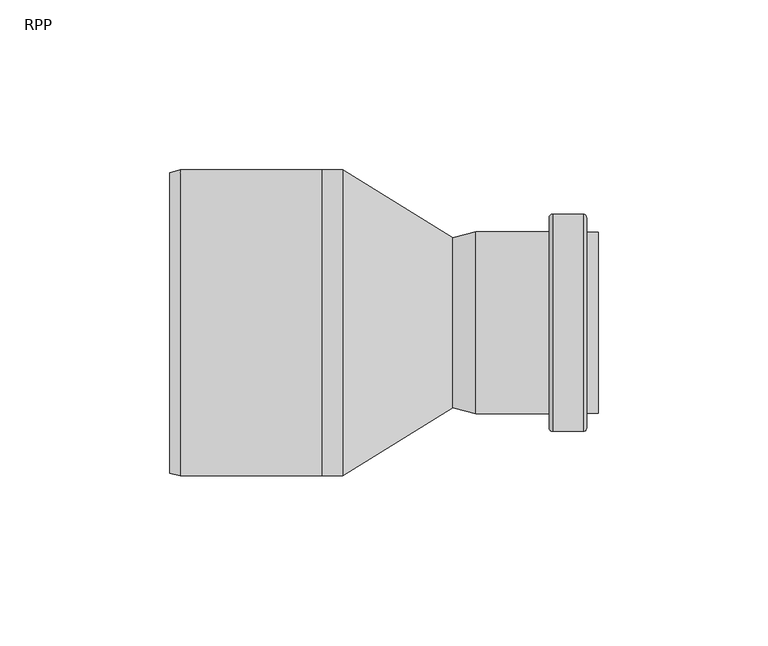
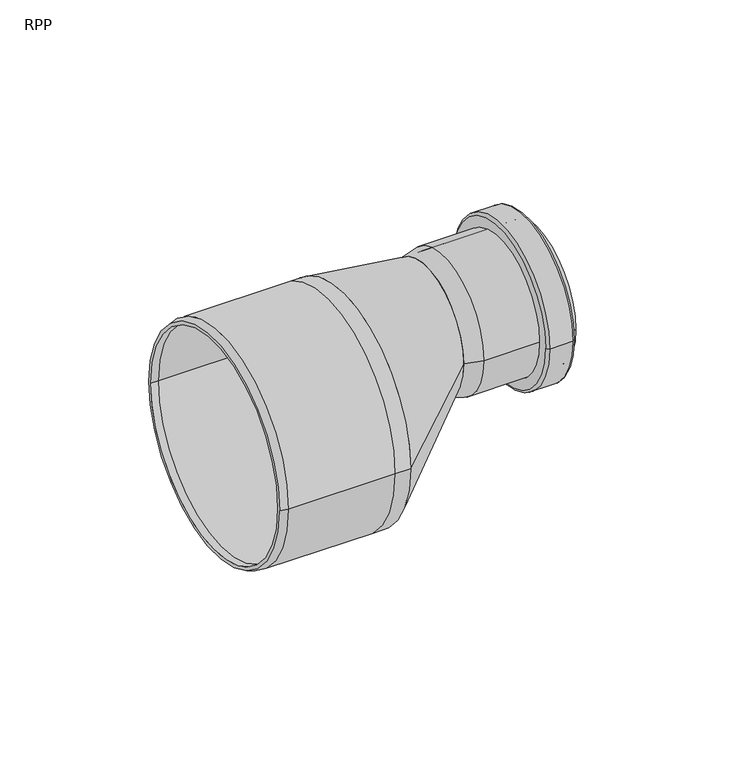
"""IFC4 building model written with IfcOpenShell, lengths in millimetres: pipe fitting geometry, RAUPIANO PLUS Reducer : RPP."""

from ifc_helpers import new_model, si_unit, point, frame, origin, place, context, project, spatial, polyline, circle_curve, ellipse_curve, trimmed, source, transform, mapped, element, save
from ifc_brep_helpers import plane_surface, cylinder_surface, revolved_surface, spline_surface, advanced_brep


def rpp_d7fdc592(model_context):
    return source(origin(), model_context, "Body", "AdvancedBrep", [
        advanced_brep(
        [(44.6, 26.8220545, 20.0), (44.6, -26.8220545, 20.0), (23.0, -26.8220545, 20.0), (23.0, 26.8220545, 20.0), (59.0, 26.6076952, 20.0), (59.0, -26.6076952, 20.0), (55.6, -26.6076952, 20.0), (55.6, 26.6076952, 20.0), (55.6, 25.0220545, 20.0), (55.6, -25.0220545, 20.0), (59.0, -25.0220545, 20.0), (59.0, 25.0220545, 20.0), (23.0, 25.0220545, 20.0), (23.0, -25.0220545, 20.0), (16.2, 23.2, 20.0), (16.2, -23.2, 20.0), (16.2, -25.0, 20.0), (16.2, 25.0, 20.0), (45.6, 31.9720545, 20.0), (45.6, -31.9720545, 20.0), (44.6, -30.9720545, 20.0), (44.6, 30.9720545, 20.0), (54.6, 31.9720545, 20.0), (54.6, -31.9720545, 20.0), (55.6, 30.9720545, 20.0), (55.6, -30.9720545, 20.0)],
        [
            (0, 1, circle_curve(frame((44.6, 0.0, 20.0), z_axis=(-1.0, 0.0, 0.0), x_axis=(0.0, -1.0, 0.0)), 26.8220545)),
            (1, 2),
            (2, 3, circle_curve(frame((23.0, 0.0, 20.0), z_axis=(1.0, 0.0, 0.0), x_axis=(0.0, -1.0, 0.0)), 26.8220545)),
            (3, 0),
            (4, 5, circle_curve(frame((59.0, 0.0, 20.0), z_axis=(-1.0, 0.0, 0.0), x_axis=(0.0, -1.0, 0.0)), 26.6076952)),
            (5, 6),
            (6, 7, circle_curve(frame((55.6, 0.0, 20.0), z_axis=(1.0, 0.0, 0.0), x_axis=(0.0, -1.0, 0.0)), 26.6076952)),
            (7, 4),
            (8, 9, circle_curve(frame((55.6, 0.0, 20.0), z_axis=(-1.0, 0.0, 0.0), x_axis=(0.0, -1.0, 0.0)), 25.0220545)),
            (9, 10),
            (10, 11, circle_curve(frame((59.0, 0.0, 20.0), z_axis=(1.0, 0.0, 0.0), x_axis=(0.0, -1.0, 0.0)), 25.0220545)),
            (11, 8),
            (12, 13, circle_curve(frame((23.0, 0.0, 20.0), z_axis=(-1.0, 0.0, 0.0), x_axis=(0.0, -1.0, 0.0)), 25.0220545)),
            (13, 9),
            (8, 12),
            (14, 15, circle_curve(frame((16.2, 0.0, 20.0), z_axis=(-1.0, 0.0, 0.0), x_axis=(0.0, -1.0, 0.0)), 23.2)),
            (15, 13),
            (12, 14),
            (2, 16),
            (16, 17, circle_curve(frame((16.2, 0.0, 20.0), z_axis=(1.0, 0.0, 0.0), x_axis=(0.0, -1.0, 0.0)), 25.0)),
            (17, 3),
            (1, 0, circle_curve(frame((44.6, 0.0, 20.0), z_axis=(-1.0, 0.0, 0.0), x_axis=(0.0, 1.0, 0.0)), 26.8220545)),
            (3, 2, circle_curve(frame((23.0, 0.0, 20.0), z_axis=(1.0, 0.0, 0.0), x_axis=(0.0, 1.0, 0.0)), 26.8220545)),
            (5, 4, circle_curve(frame((59.0, 0.0, 20.0), z_axis=(-1.0, 0.0, 0.0), x_axis=(0.0, 1.0, 0.0)), 26.6076952)),
            (7, 6, circle_curve(frame((55.6, 0.0, 20.0), z_axis=(1.0, 0.0, 0.0), x_axis=(0.0, 1.0, 0.0)), 26.6076952)),
            (10, 11, circle_curve(frame((59.0, 0.0, 20.0), z_axis=(-1.0, 0.0, 0.0), x_axis=(0.0, 1.0, 0.0)), 25.0220545)),
            (9, 8, circle_curve(frame((55.6, 0.0, 20.0), z_axis=(-1.0, 0.0, 0.0), x_axis=(0.0, 1.0, 0.0)), 25.0220545)),
            (13, 12, circle_curve(frame((23.0, 0.0, 20.0), z_axis=(-1.0, 0.0, 0.0), x_axis=(0.0, 1.0, 0.0)), 25.0220545)),
            (15, 14, circle_curve(frame((16.2, 0.0, 20.0), z_axis=(-1.0, 0.0, 0.0), x_axis=(0.0, 1.0, 0.0)), 23.2)),
            (17, 16, circle_curve(frame((16.2, 0.0, 20.0), z_axis=(1.0, 0.0, 0.0), x_axis=(0.0, 1.0, 0.0)), 25.0)),
            (18, 19, circle_curve(frame((45.6, 0.0, 20.0), z_axis=(-1.0, 0.0, 0.0), x_axis=(0.0, -1.0, 0.0)), 31.9720545)),
            (19, 20, circle_curve(frame((45.6, -30.9720545, 20.0), z_axis=(0.0, 0.0, -1.0), x_axis=(1.0, 0.0, 0.0)), 1.0)),
            (20, 21, circle_curve(frame((44.6, 0.0, 20.0), z_axis=(1.0, 0.0, 0.0), x_axis=(0.0, -1.0, 0.0)), 30.9720545)),
            (21, 18, circle_curve(frame((45.6, 30.9720545, 20.0), z_axis=(0.0, 0.0, -1.0), x_axis=(1.0, 0.0, 0.0)), 1.0)),
            (22, 23, circle_curve(frame((54.6, 0.0, 20.0), z_axis=(-1.0, 0.0, 0.0), x_axis=(0.0, -1.0, 0.0)), 31.9720545)),
            (23, 19),
            (18, 22),
            (24, 25, circle_curve(frame((55.6, 0.0, 20.0), z_axis=(-1.0, 0.0, 0.0), x_axis=(0.0, -1.0, 0.0)), 30.9720545)),
            (25, 23, circle_curve(frame((54.6, -30.9720545, 20.0), z_axis=(0.0, 0.0, -1.0), x_axis=(1.0, 0.0, 0.0)), 1.0)),
            (22, 24, circle_curve(frame((54.6, 30.9720545, 20.0), z_axis=(0.0, 0.0, -1.0), x_axis=(1.0, 0.0, 0.0)), 1.0)),
            (20, 21, circle_curve(frame((44.6, 0.0, 20.0), z_axis=(-1.0, 0.0, 0.0), x_axis=(0.0, 1.0, 0.0)), 30.9720545)),
            (19, 18, circle_curve(frame((45.6, 0.0, 20.0), z_axis=(-1.0, 0.0, 0.0), x_axis=(0.0, 1.0, 0.0)), 31.9720545)),
            (23, 22, circle_curve(frame((54.6, 0.0, 20.0), z_axis=(-1.0, 0.0, 0.0), x_axis=(0.0, 1.0, 0.0)), 31.9720545)),
            (25, 24, circle_curve(frame((55.6, 0.0, 20.0), z_axis=(-1.0, 0.0, 0.0), x_axis=(0.0, 1.0, 0.0)), 30.9720545)),
        ],
        [
            cylinder_surface(frame((0.0, 0.0, 20.0), z_axis=(1.0, 0.0, 0.0), x_axis=(0.0, -1.0, 0.0)), 26.8220545),
            cylinder_surface(frame((0.0, 0.0, 20.0), z_axis=(1.0, 0.0, 0.0), x_axis=(0.0, -1.0, 0.0)), 26.6076952),
            revolved_surface(polyline([(59.0, -25.0220545, 20.0), (55.6, -25.0220545, 20.0)]), (0.0, 0.0, 20.0), (1.0, 0.0, 0.0)),
            revolved_surface(polyline([(55.6, -25.0220545, 20.0), (23.0, -25.0220545, 20.0)]), (0.0, 0.0, 20.0), (1.0, 0.0, 0.0)),
            revolved_surface(polyline([(23.0, -25.0220545, 20.0), (16.2, -23.2, 20.0)]), (0.0, 0.0, 20.0), (1.0, 0.0, 0.0)),
            revolved_surface(polyline([(16.2, -25.0, 20.0), (23.0, -26.8220545, 20.0)]), (0.0, 0.0, 20.0), (1.0, 0.0, 0.0)),
            cylinder_surface(frame((0.0, 0.0, 20.0), z_axis=(1.0, 0.0, 0.0), x_axis=(0.0, 1.0, 0.0)), 26.8220545),
            cylinder_surface(frame((0.0, 0.0, 20.0), z_axis=(1.0, 0.0, 0.0), x_axis=(0.0, 1.0, 0.0)), 26.6076952),
            plane_surface(frame((59.0, 0.0, 20.0), z_axis=(1.0, 0.0, 0.0), x_axis=(0.0, 1.0, 0.0))),
            revolved_surface(polyline([(59.0, 25.0220545, 20.0), (55.6, 25.0220545, 20.0)]), (0.0, 0.0, 20.0), (1.0, 0.0, 0.0)),
            revolved_surface(polyline([(55.6, 25.0220545, 20.0), (23.0, 25.0220545, 20.0)]), (0.0, 0.0, 20.0), (1.0, 0.0, 0.0)),
            revolved_surface(polyline([(23.0, 25.0220545, 20.0), (16.2, 23.2, 20.0)]), (0.0, 0.0, 20.0), (1.0, 0.0, 0.0)),
            revolved_surface(polyline([(16.2, 25.0, 20.0), (23.0, 26.8220545, 20.0)]), (0.0, 0.0, 20.0), (1.0, 0.0, 0.0)),
            revolved_surface(trimmed(ellipse_curve(frame((45.6, -30.9720545, 20.0), z_axis=(0.0, 0.0, 1.0), x_axis=(1.0, 0.0, 0.0)), 1.0, 1.0), [point((44.6, -30.9720545, 20.0))], [point((45.6, -31.9720545, 20.0))], True, "CARTESIAN"), (0.0, 0.0, 20.0), (1.0, 0.0, 0.0)),
            cylinder_surface(frame((0.0, 0.0, 20.0), z_axis=(1.0, 0.0, 0.0), x_axis=(0.0, -1.0, 0.0)), 31.9720545),
            revolved_surface(trimmed(ellipse_curve(frame((54.6, -30.9720545, 20.0), z_axis=(0.0, 0.0, 1.0), x_axis=(1.0, 0.0, 0.0)), 1.0, 1.0), [point((54.6, -31.9720545, 20.0))], [point((55.6, -30.9720545, 20.0))], True, "CARTESIAN"), (0.0, 0.0, 20.0), (1.0, 0.0, 0.0)),
            plane_surface(frame((44.6, 0.0, 20.0), z_axis=(-1.0, 0.0, 0.0), x_axis=(0.0, 1.0, 0.0))),
            revolved_surface(trimmed(ellipse_curve(frame((45.6, 30.9720545, 20.0), z_axis=(0.0, 0.0, -1.0), x_axis=(1.0, 0.0, 0.0)), 1.0, 1.0), [point((44.6, 30.9720545, 20.0))], [point((45.6, 31.9720545, 20.0))], True, "CARTESIAN"), (0.0, 0.0, 20.0), (1.0, 0.0, 0.0)),
            cylinder_surface(frame((0.0, 0.0, 20.0), z_axis=(1.0, 0.0, 0.0), x_axis=(0.0, 1.0, 0.0)), 31.9720545),
            revolved_surface(trimmed(ellipse_curve(frame((54.6, 30.9720545, 20.0), z_axis=(0.0, 0.0, -1.0), x_axis=(1.0, 0.0, 0.0)), 1.0, 1.0), [point((54.6, 31.9720545, 20.0))], [point((55.6, 30.9720545, 20.0))], True, "CARTESIAN"), (0.0, 0.0, 20.0), (1.0, 0.0, 0.0)),
            plane_surface(frame((55.6, 0.0, 20.0), z_axis=(1.0, 0.0, 0.0), x_axis=(0.0, 1.0, 0.0))),
            plane_surface(frame((16.2, 0.0, 20.0), z_axis=(-1.0, 0.0, 0.0), x_axis=(0.0, 1.0, 0.0))),
        ],
        [
            (0, [[1, 2, 3, 4]]),
            (1, [[5, 6, 7, 8]]),
            (2, [[9, 10, 11, 12]]),
            (3, [[13, 14, -9, 15]]),
            (4, [[16, 17, -13, 18]]),
            (5, [[-3, 19, 20, 21]]),
            (6, [[22, -4, 23, -2]]),
            (7, [[24, -8, 25, -6]]),
            (8, [[-24, -5], [26, -11]]),
            (9, [[27, -12, -26, -10]]),
            (10, [[28, -15, -27, -14]]),
            (11, [[29, -18, -28, -17]]),
            (12, [[-23, -21, 30, -19]]),
            (13, [[31, 32, 33, 34]]),
            (14, [[35, 36, -31, 37]]),
            (15, [[38, 39, -35, 40]]),
            (16, [[41, -33], [-22, -1]]),
            (17, [[42, -34, -41, -32]]),
            (18, [[43, -37, -42, -36]]),
            (19, [[44, -40, -43, -39]]),
            (20, [[-44, -38], [-25, -7]]),
            (21, [[-30, -20], [-29, -16]]),
        ],
    ),
        advanced_brep(
        [(-16.2, 45.0, 0.0), (-16.2, -45.0, 0.0), (-22.2, -45.0, 0.0), (-22.2, 45.0, 0.0), (-22.2, 42.8, 0.0), (-22.2, -42.8, 0.0), (-16.2, -42.8, 0.0), (-16.2, 42.8, 0.0), (-64.0, 42.8, 0.0), (-64.0, -42.8, 0.0), (-67.0, 42.8, 0.0), (-67.0, -42.8, 0.0), (-64.0, 45.0, 0.0), (-64.0, -45.0, 0.0), (-67.0, -44.1961524, 0.0), (-67.0, 44.1961524, 0.0)],
        [
            (0, 1, circle_curve(frame((-16.2, 0.0, 0.0), z_axis=(-1.0, 0.0, 0.0), x_axis=(0.0, -1.0, 0.0)), 45.0)),
            (1, 2),
            (2, 3, circle_curve(frame((-22.2, 0.0, 0.0), z_axis=(1.0, 0.0, 0.0), x_axis=(0.0, -1.0, 0.0)), 45.0)),
            (3, 0),
            (4, 5, circle_curve(frame((-22.2, 0.0, 0.0), z_axis=(-1.0, 0.0, 0.0), x_axis=(0.0, -1.0, 0.0)), 42.8)),
            (5, 6),
            (6, 7, circle_curve(frame((-16.2, 0.0, 0.0), z_axis=(1.0, 0.0, 0.0), x_axis=(0.0, -1.0, 0.0)), 42.8)),
            (7, 4),
            (8, 9, circle_curve(frame((-64.0, 0.0, 0.0), z_axis=(-1.0, 0.0, 0.0), x_axis=(0.0, -1.0, 0.0)), 42.8)),
            (9, 5),
            (4, 8),
            (10, 11, circle_curve(frame((-67.0, 0.0, 0.0), z_axis=(-1.0, 0.0, 0.0), x_axis=(0.0, -1.0, 0.0)), 42.8)),
            (11, 9),
            (8, 10),
            (12, 13, circle_curve(frame((-64.0, 0.0, 0.0), z_axis=(-1.0, 0.0, 0.0), x_axis=(0.0, -1.0, 0.0)), 45.0)),
            (13, 14),
            (14, 15, circle_curve(frame((-67.0, 0.0, 0.0), z_axis=(1.0, 0.0, 0.0), x_axis=(0.0, -1.0, 0.0)), 44.1961524)),
            (15, 12),
            (2, 13),
            (12, 3),
            (1, 0, circle_curve(frame((-16.2, 0.0, 0.0), z_axis=(-1.0, 0.0, 0.0), x_axis=(0.0, 1.0, 0.0)), 45.0)),
            (3, 2, circle_curve(frame((-22.2, 0.0, 0.0), z_axis=(1.0, 0.0, 0.0), x_axis=(0.0, 1.0, 0.0)), 45.0)),
            (6, 7, circle_curve(frame((-16.2, 0.0, 0.0), z_axis=(-1.0, 0.0, 0.0), x_axis=(0.0, 1.0, 0.0)), 42.8)),
            (5, 4, circle_curve(frame((-22.2, 0.0, 0.0), z_axis=(-1.0, 0.0, 0.0), x_axis=(0.0, 1.0, 0.0)), 42.8)),
            (9, 8, circle_curve(frame((-64.0, 0.0, 0.0), z_axis=(-1.0, 0.0, 0.0), x_axis=(0.0, 1.0, 0.0)), 42.8)),
            (11, 10, circle_curve(frame((-67.0, 0.0, 0.0), z_axis=(-1.0, 0.0, 0.0), x_axis=(0.0, 1.0, 0.0)), 42.8)),
            (14, 15, circle_curve(frame((-67.0, 0.0, 0.0), z_axis=(-1.0, 0.0, 0.0), x_axis=(0.0, 1.0, 0.0)), 44.1961524)),
            (13, 12, circle_curve(frame((-64.0, 0.0, 0.0), z_axis=(-1.0, 0.0, 0.0), x_axis=(0.0, 1.0, 0.0)), 45.0)),
        ],
        [
            cylinder_surface(frame((0.0, 0.0, 0.0), z_axis=(1.0, 0.0, 0.0), x_axis=(0.0, -1.0, 0.0)), 45.0),
            revolved_surface(polyline([(-16.2, -42.8, 0.0), (-22.2, -42.8, 0.0)]), (0.0, 0.0, 0.0), (1.0, 0.0, 0.0)),
            revolved_surface(polyline([(-22.2, -42.8, 0.0), (-64.0, -42.8, 0.0)]), (0.0, 0.0, 0.0), (1.0, 0.0, 0.0)),
            revolved_surface(polyline([(-64.0, -42.8, 0.0), (-67.0, -42.8, 0.0)]), (0.0, 0.0, 0.0), (1.0, 0.0, 0.0)),
            revolved_surface(polyline([(-67.0, -44.1961524, 0.0), (-64.0, -45.0, 0.0)]), (0.0, 0.0, 0.0), (1.0, 0.0, 0.0)),
            cylinder_surface(frame((0.0, 0.0, 0.0), z_axis=(1.0, 0.0, 0.0), x_axis=(0.0, 1.0, 0.0)), 45.0),
            plane_surface(frame((-16.2, 0.0, 0.0), z_axis=(1.0, 0.0, 0.0), x_axis=(0.0, 1.0, 0.0))),
            revolved_surface(polyline([(-16.2, 42.8, 0.0), (-22.2, 42.8, 0.0)]), (0.0, 0.0, 0.0), (1.0, 0.0, 0.0)),
            revolved_surface(polyline([(-22.2, 42.8, 0.0), (-64.0, 42.8, 0.0)]), (0.0, 0.0, 0.0), (1.0, 0.0, 0.0)),
            revolved_surface(polyline([(-64.0, 42.8, 0.0), (-67.0, 42.8, 0.0)]), (0.0, 0.0, 0.0), (1.0, 0.0, 0.0)),
            plane_surface(frame((-67.0, 0.0, 0.0), z_axis=(-1.0, 0.0, 0.0), x_axis=(0.0, 1.0, 0.0))),
            revolved_surface(polyline([(-67.0, 44.1961524, 0.0), (-64.0, 45.0, 0.0)]), (0.0, 0.0, 0.0), (1.0, 0.0, 0.0)),
        ],
        [
            (0, [[1, 2, 3, 4]]),
            (1, [[5, 6, 7, 8]]),
            (2, [[9, 10, -5, 11]]),
            (3, [[12, 13, -9, 14]]),
            (4, [[15, 16, 17, 18]]),
            (0, [[-3, 19, -15, 20]]),
            (5, [[21, -4, 22, -2]]),
            (6, [[-21, -1], [23, -7]]),
            (7, [[24, -8, -23, -6]]),
            (8, [[25, -11, -24, -10]]),
            (9, [[26, -14, -25, -13]]),
            (10, [[27, -17], [-26, -12]]),
            (11, [[28, -18, -27, -16]]),
            (5, [[-22, -20, -28, -19]]),
        ],
    ),
        advanced_brep(
        [(16.2, -25.0, 20.0), (16.2, 25.0, 20.0), (-16.2, -45.0, 0.0), (-16.2, 45.0, 0.0)],
        [
            (0, 1, circle_curve(frame((16.2, 0.0, 20.0), z_axis=(1.0, 0.0, 0.0), x_axis=(0.0, 1.0, 0.0)), 25.0)),
            (1, 0, circle_curve(frame((16.2, 0.0, 20.0), z_axis=(1.0, 0.0, 0.0), x_axis=(0.0, 1.0, 0.0)), 25.0)),
            (2, 3, circle_curve(frame((-16.2, 0.0, 0.0), z_axis=(-1.0, 0.0, 0.0), x_axis=(0.0, 1.0, 0.0)), 45.0)),
            (3, 2, circle_curve(frame((-16.2, 0.0, 0.0), z_axis=(-1.0, 0.0, 0.0), x_axis=(0.0, 1.0, 0.0)), 45.0)),
            (3, 1),
            (0, 2),
        ],
        [
            plane_surface(frame((16.2, 0.0, 20.0), z_axis=(1.0, 0.0, 0.0), x_axis=(0.0, 0.0, -1.0))),
            plane_surface(frame((-16.2, 0.0, 0.0), z_axis=(-1.0, 0.0, 0.0), x_axis=(0.0, 0.0, -1.0))),
            spline_surface(2, 1, [[(-16.2, -45.0, 0.0), (16.2, -25.0, 20.0)], [(-16.2, -45.0, -45.0), (16.2, -25.0, -5.0)], [(-16.2, 0.0, -45.0), (16.2, 0.0, -5.0)], [(-16.2, 45.0, -45.0), (16.2, 25.0, -5.0)], [(-16.2, 45.0, 0.0), (16.2, 25.0, 20.0)]], [3, 2, 3], [2, 2], [0.0, 1.0, 2.0], [0.0, 1.0], weights=[[1.0, 1.0], [0.7071067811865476, 0.7071067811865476], [1.0, 1.0], [0.7071067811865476, 0.7071067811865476], [1.0, 1.0]]),
            spline_surface(2, 1, [[(-16.2, 45.0, 0.0), (16.2, 25.0, 20.0)], [(-16.2, 45.0, 45.0), (16.2, 25.0, 45.0)], [(-16.2, 0.0, 45.0), (16.2, 0.0, 45.0)], [(-16.2, -45.0, 45.0), (16.2, -25.0, 45.0)], [(-16.2, -45.0, 0.0), (16.2, -25.0, 20.0)]], [3, 2, 3], [2, 2], [0.0, 1.0, 2.0], [0.0, 1.0], weights=[[1.0, 1.0], [0.7071067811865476, 0.7071067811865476], [1.0, 1.0], [0.7071067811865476, 0.7071067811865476], [1.0, 1.0]]),
        ],
        [
            (0, [[1, 2]]),
            (1, [[3, 4]]),
            (2, [[-4, 5, -1, 6]]),
            (3, [[-3, -6, -2, -5]]),
        ],
    ),
    ])


if __name__ == "__main__":
    model = new_model("IFC4")
    model_context = context("Model", 3, world=origin())
    ifc_project = project(units=[si_unit("LENGTHUNIT", "METRE", prefix="MILLI")], contexts=[model_context])
    site = spatial("IfcSite", under=ifc_project)
    building = spatial("IfcBuilding", under=site)
    placement = place(None, origin())
    rpp_shape = rpp_d7fdc592(model_context)
    element("IfcPipeFitting", 1, ObjectType="RAUPIANO PLUS Reducer : RPP", at=placement, inside=building, context=model_context, shape_type="MappedRepresentation", body=[
        mapped(rpp_shape, transform((0.0, 0.0, 0.0), x_axis=(1.0, 0.0, 0.0), y_axis=(0.0, 1.0, 0.0), z_axis=(0.0, 0.0, 1.0))),
    ])
    save(model, "model.ifc")
